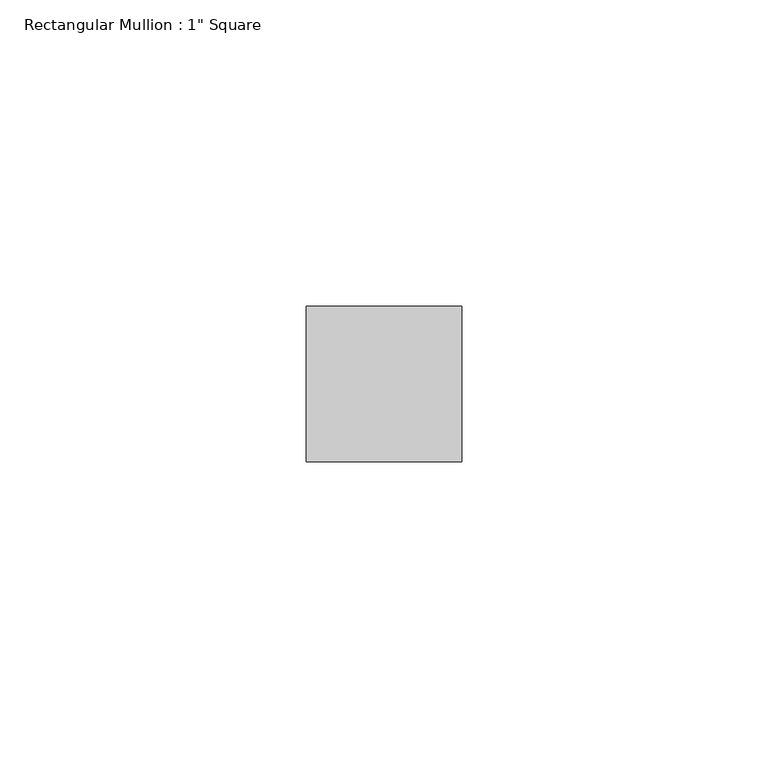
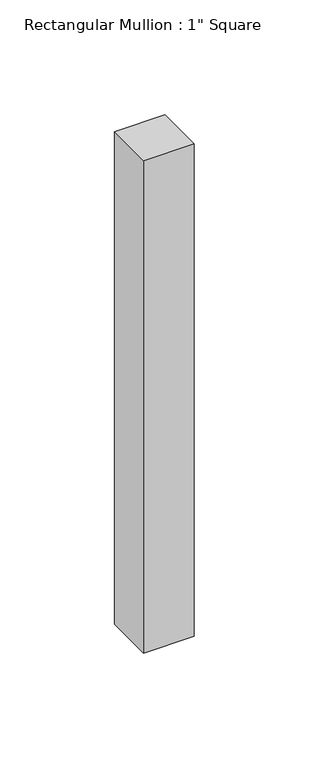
"""IFC4 building model written with IfcOpenShell, lengths in millimetres: member geometry."""

from ifc_helpers import new_model, si_unit, frame, origin, place, context, project, spatial, polyline, outline, extrude, source, transform, mapped, element, save


def member_159572b0(model_context):
    return source(origin(), model_context, "Body", "SweptSolid", [
        extrude(outline(polyline([(0.0, 12.7), (0.0, -12.7), (-25.4, -12.7), (-25.4, 12.7), (0.0, 12.7)])), frame((0.0, 0.0, -261.9), z_axis=(0.0, 0.0, 1.0), x_axis=(1.0, 0.0, 0.0)), (0.0, 0.0, 1.0), 261.9),
    ])


if __name__ == "__main__":
    model = new_model("IFC4")
    model_context = context("Model", 3, world=origin())
    ifc_project = project(units=[si_unit("LENGTHUNIT", "METRE", prefix="MILLI")], contexts=[model_context])
    site = spatial("IfcSite", under=ifc_project)
    building = spatial("IfcBuilding", under=site)
    placement = place(None, origin())
    member_shape = member_159572b0(model_context)
    element("IfcMember", 1, ObjectType="Rectangular Mullion : 1\" Square", at=placement, inside=building, context=model_context, shape_type="MappedRepresentation", body=[
        mapped(member_shape, transform((0.0, 0.0, 0.0), x_axis=(1.0, 0.0, 0.0), y_axis=(0.0, 1.0, 0.0), z_axis=(0.0, 0.0, 1.0))),
    ])
    save(model, "model.ifc")
